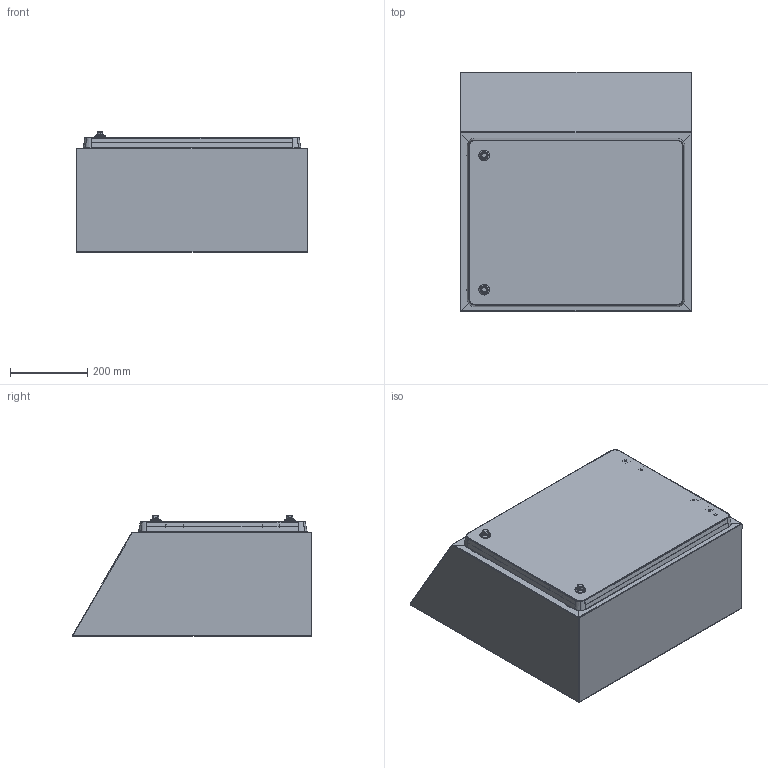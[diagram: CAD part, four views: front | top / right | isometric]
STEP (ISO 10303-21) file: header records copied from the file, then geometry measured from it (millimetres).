
FILE_DESCRIPTION (( 'STEP AP214' ), '1' );
FILE_NAME ('IP-H456030_step.stp', '2025-04-09T02:29:21', ( '' ), ( '' ), 'SwSTEP 2.0', 'SolidWorks 2023', '' );
FILE_SCHEMA (( 'AUTOMOTIVE_DESIGN' ));
Length unit declared in the file: millimetre
Products named in the file (1): IP-H456030_step
Bounding box: 600.2 x 621.7 x 313.12 mm (x, y, z)
Surface area: 3379344.9 mm2 (no closed solid volume)
Topology: 0 solids, 79 shells, 3128 faces, 6934 edges, 3994 vertices
Faces by surface type: cylinder 852, plane 838, torus 792, cone 544, bspline 102
Entity records: 102865 total; most frequent: CARTESIAN_POINT 32517, DIRECTION 15638, ORIENTED_EDGE 13860, EDGE_CURVE 6934, AXIS2_PLACEMENT_3D 6397, VERTEX_POINT 3994, CIRCLE 3370, EDGE_LOOP 3282
